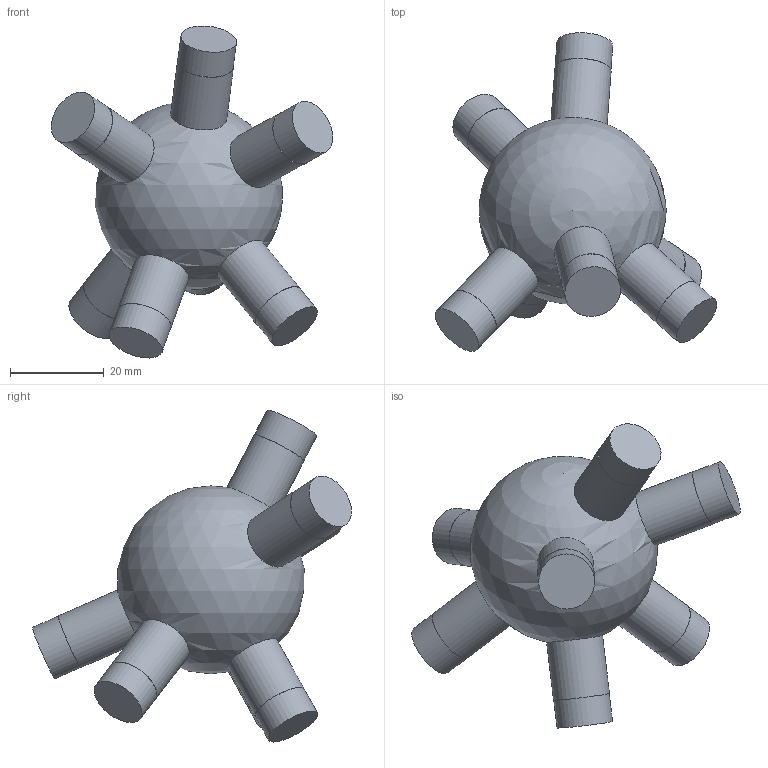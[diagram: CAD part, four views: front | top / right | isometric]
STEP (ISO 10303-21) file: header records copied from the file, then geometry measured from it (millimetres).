
FILE_DESCRIPTION(('Open CASCADE Model'),'2;1');
FILE_NAME('Open CASCADE Shape Model','2026-10-21T12:47:57',('Author'),( 'Open CASCADE'),'Open CASCADE STEP processor 7.9','Open CASCADE 7.9' ,'Unknown');
FILE_SCHEMA(('AUTOMOTIVE_DESIGN { 1 0 10303 214 1 1 1 1 }'));
Length unit declared in the file: millimetre
Products named in the file (1): Open CASCADE STEP translator 7.9 159
Bounding box: 59.91 x 67.87 x 70.66 mm (x, y, z)
Volume: 48366.5 mm3; surface area: 10095.6 mm2
Topology: 1 solids, 1 shells, 29 faces, 45 edges, 30 vertices
Faces by surface type: cylinder 14, plane 14, sphere 1
Full cylindrical faces by diameter (mm): 11.9 x7, 12 x7
Entity records: 1687 total; most frequent: CARTESIAN_POINT 682, DIRECTION 207, ORIENTED_EDGE 84, PCURVE 84, DEFINITIONAL_REPRESENTATION 84, LINE 70, VECTOR 70, AXIS2_PLACEMENT_3D 58
